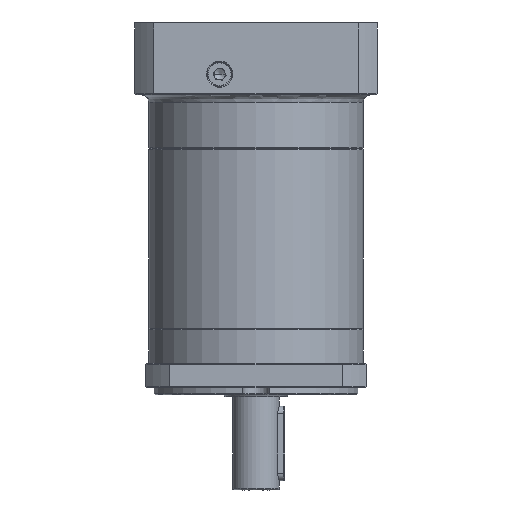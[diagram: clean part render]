
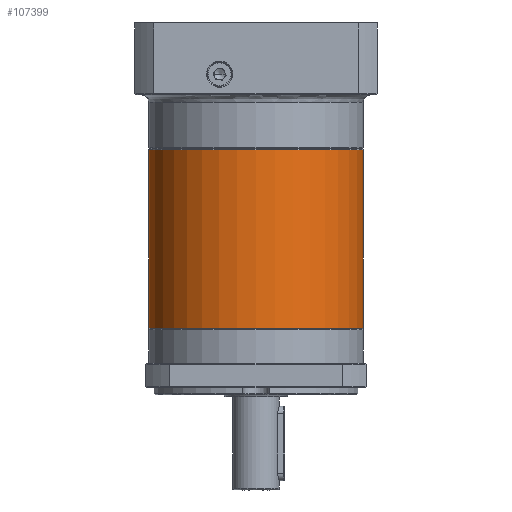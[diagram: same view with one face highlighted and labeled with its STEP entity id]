
A CAD part, front view. The second image highlights one B-rep face of the part: STEP entity #107399.
In plain terms, the highlighted cylindrical face has radius 57.5 mm (diameter 115 mm), a partial arc.
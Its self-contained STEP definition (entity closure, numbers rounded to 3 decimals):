
#1234 = DIRECTION ( 'NONE',  ( 0., 0., -1. ) ) ;
#15636 = ORIENTED_EDGE ( 'NONE', *, *, #132822, .T. ) ;
#17946 = AXIS2_PLACEMENT_3D ( 'NONE', #122985, #133503, #19942 ) ;
#18450 = LINE ( 'NONE', #68997, #84314 ) ;
#18749 = ORIENTED_EDGE ( 'NONE', *, *, #103537, .T. ) ;
#19942 = DIRECTION ( 'NONE',  ( -1., 0., 0. ) ) ;
#24113 = AXIS2_PLACEMENT_3D ( 'NONE', #93591, #73006, #73421 ) ;
#29685 = DIRECTION ( 'NONE',  ( 0., 0., -1. ) ) ;
#30773 = ORIENTED_EDGE ( 'NONE', *, *, #83048, .F. ) ;
#37757 = CARTESIAN_POINT ( 'NONE',  ( 53.908, -3.79, -55.944 ) ) ;
#41092 = CIRCLE ( 'NONE', #24113, 57.5 ) ;
#42502 = CARTESIAN_POINT ( 'NONE',  ( -3.592, 53.71, -151.655 ) ) ;
#46362 = VECTOR ( 'NONE', #29685, 1000. ) ;
#51694 = EDGE_CURVE ( 'NONE', #81155, #124478, #65433, .T. ) ;
#54155 = DIRECTION ( 'NONE',  ( 0., 0., 1. ) ) ;
#58445 = EDGE_LOOP ( 'NONE', ( #30773, #65549, #59584, #18749, #15636 ) ) ;
#59584 = ORIENTED_EDGE ( 'NONE', *, *, #51694, .T. ) ;
#62995 = VERTEX_POINT ( 'NONE', #42502 ) ;
#63368 = DIRECTION ( 'NONE',  ( -1., 0., 0. ) ) ;
#64279 = CARTESIAN_POINT ( 'NONE',  ( 53.908, 53.71, -151.655 ) ) ;
#65433 = CIRCLE ( 'NONE', #107015, 57.5 ) ;
#65549 = ORIENTED_EDGE ( 'NONE', *, *, #134409, .T. ) ;
#65550 = CIRCLE ( 'NONE', #88195, 57.5 ) ;
#68997 = CARTESIAN_POINT ( 'NONE',  ( 111.408, 53.71, -55.444 ) ) ;
#73006 = DIRECTION ( 'NONE',  ( 0., 0., -1. ) ) ;
#73421 = DIRECTION ( 'NONE',  ( -1., 0., 0. ) ) ;
#77534 = CARTESIAN_POINT ( 'NONE',  ( -3.592, 53.71, -55.944 ) ) ;
#78696 = CYLINDRICAL_SURFACE ( 'NONE', #17946, 57.5 ) ;
#81155 = VERTEX_POINT ( 'NONE', #37757 ) ;
#83048 = EDGE_CURVE ( 'NONE', #129959, #107062, #18450, .T. ) ;
#84314 = VECTOR ( 'NONE', #110306, 1000. ) ;
#88195 = AXIS2_PLACEMENT_3D ( 'NONE', #64279, #54155, #63368 ) ;
#93591 = CARTESIAN_POINT ( 'NONE',  ( 53.908, 53.71, -55.944 ) ) ;
#96384 = CARTESIAN_POINT ( 'NONE',  ( 53.908, 53.71, -55.944 ) ) ;
#102397 = LINE ( 'NONE', #133533, #46362 ) ;
#103537 = EDGE_CURVE ( 'NONE', #124478, #62995, #102397, .T. ) ;
#107015 = AXIS2_PLACEMENT_3D ( 'NONE', #96384, #1234, #107881 ) ;
#107062 = VERTEX_POINT ( 'NONE', #124480 ) ;
#107399 = ADVANCED_FACE ( 'NONE', ( #111562 ), #78696, .T. ) ;
#107881 = DIRECTION ( 'NONE',  ( -1., 0., 0. ) ) ;
#110306 = DIRECTION ( 'NONE',  ( 0., 0., -1. ) ) ;
#111562 = FACE_OUTER_BOUND ( 'NONE', #58445, .T. ) ;
#115714 = CARTESIAN_POINT ( 'NONE',  ( 111.408, 53.71, -55.944 ) ) ;
#122985 = CARTESIAN_POINT ( 'NONE',  ( 53.908, 53.71, -55.444 ) ) ;
#124478 = VERTEX_POINT ( 'NONE', #77534 ) ;
#124480 = CARTESIAN_POINT ( 'NONE',  ( 111.408, 53.71, -151.655 ) ) ;
#129959 = VERTEX_POINT ( 'NONE', #115714 ) ;
#132822 = EDGE_CURVE ( 'NONE', #62995, #107062, #65550, .T. ) ;
#133503 = DIRECTION ( 'NONE',  ( 0., 0., -1. ) ) ;
#133533 = CARTESIAN_POINT ( 'NONE',  ( -3.592, 53.71, -55.444 ) ) ;
#134409 = EDGE_CURVE ( 'NONE', #129959, #81155, #41092, .T. ) ;
